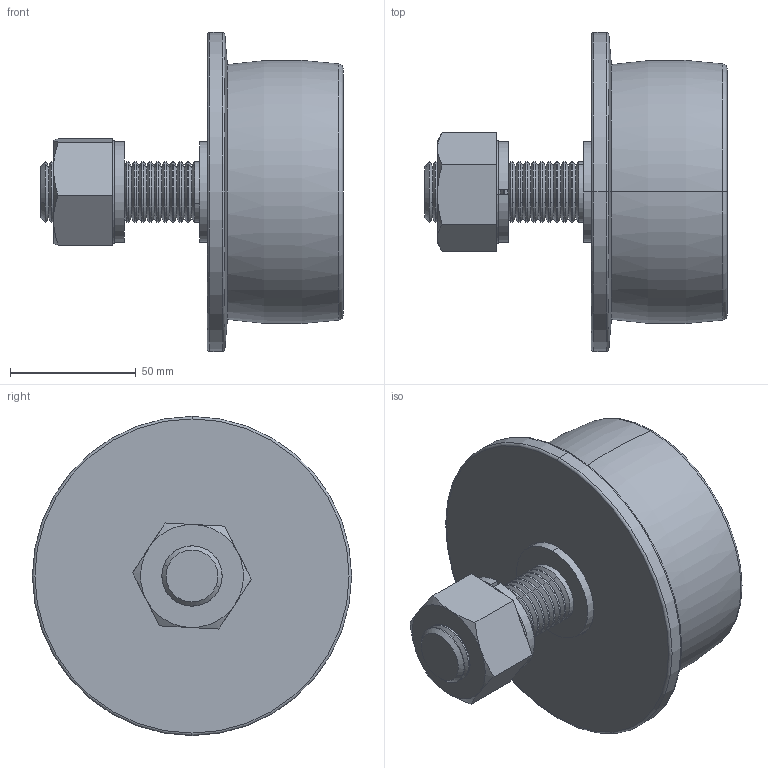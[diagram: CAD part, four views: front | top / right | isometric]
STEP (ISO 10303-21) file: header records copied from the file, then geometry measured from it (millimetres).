
FILE_DESCRIPTION (( 'STEP AP203' ), '1' );
FILE_NAME ('BTSF105X46M24.STEP', '2019-11-08T04:56:28', ( '' ), ( '' ), 'SwSTEP 2.0', 'SolidWorks 2013', '' );
FILE_SCHEMA (( 'CONFIG_CONTROL_DESIGN' ));
Length unit declared in the file: millimetre
Products named in the file (1): BTSF105X46M24
Bounding box: 120.2 x 127 x 127 mm (x, y, z)
Volume: 476239 mm3; surface area: 116731.5 mm2
Topology: 9 solids, 9 shells, 467 faces, 1658 edges, 1092 vertices
Faces by surface type: cylinder 126, torus 120, cone 100, sphere 64, plane 57
Entity records: 19075 total; most frequent: CARTESIAN_POINT 6126, ORIENTED_EDGE 2932, DIRECTION 2642, EDGE_CURVE 1466, AXIS2_PLACEMENT_3D 1184, VERTEX_POINT 964, CIRCLE 716, EDGE_LOOP 494
